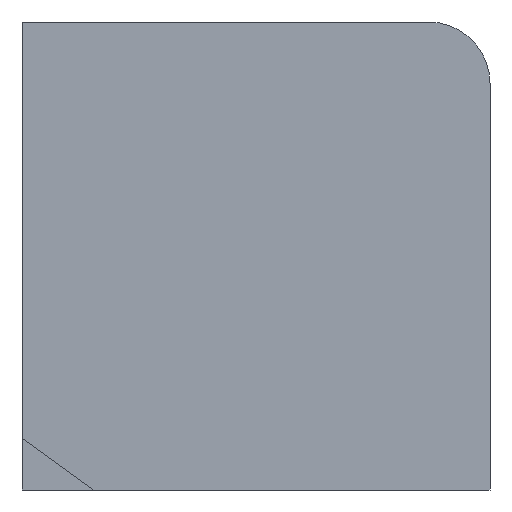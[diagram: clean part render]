
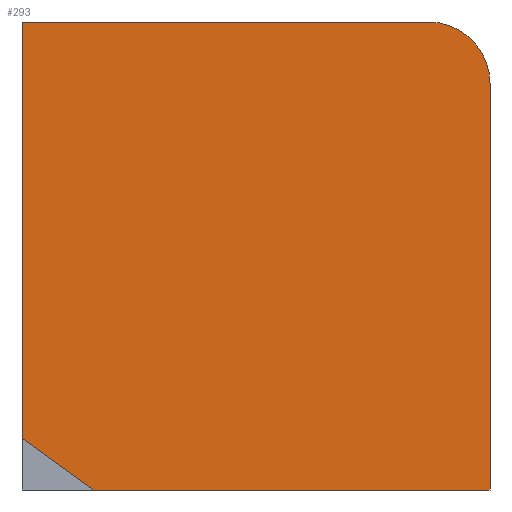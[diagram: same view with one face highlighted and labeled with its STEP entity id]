
A CAD part, front view. The second image highlights one B-rep face of the part: STEP entity #293.
In plain terms, the highlighted planar face has unit normal (0, -1, 0).
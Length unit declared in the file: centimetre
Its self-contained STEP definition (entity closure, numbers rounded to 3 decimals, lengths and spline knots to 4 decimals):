
#14 = ORIENTED_EDGE ( 'NONE', *, *, #780, .T. ) ;
#31 = CARTESIAN_POINT ( 'NONE',  ( 0., 0., 0. ) ) ;
#96 = LINE ( 'NONE', #214, #174 ) ;
#114 = CARTESIAN_POINT ( 'NONE',  ( 1000., 0., 868.5687 ) ) ;
#118 = CARTESIAN_POINT ( 'NONE',  ( 0., 0., 1000. ) ) ;
#129 = CIRCLE ( 'NONE', #882, 131.4313 ) ;
#131 = CARTESIAN_POINT ( 'NONE',  ( 0., 0., 110.1817 ) ) ;
#152 = DIRECTION ( 'NONE',  ( -0.81, 0., 0.587 ) ) ;
#159 = CARTESIAN_POINT ( 'NONE',  ( 868.5687, 0., 868.5687 ) ) ;
#174 = VECTOR ( 'NONE', #306, 100. ) ;
#185 = DIRECTION ( 'NONE',  ( 0., 0., -1. ) ) ;
#214 = CARTESIAN_POINT ( 'NONE',  ( 1000., 0., 1000. ) ) ;
#293 = ADVANCED_FACE ( 'NONE', ( #1132 ), #1358, .F. ) ;
#306 = DIRECTION ( 'NONE',  ( 0., 0., -1. ) ) ;
#325 = CARTESIAN_POINT ( 'NONE',  ( 868.5687, 0., 1000. ) ) ;
#338 = DIRECTION ( 'NONE',  ( 0., 1., 0. ) ) ;
#360 = LINE ( 'NONE', #131, #1261 ) ;
#382 = ORIENTED_EDGE ( 'NONE', *, *, #893, .F. ) ;
#386 = EDGE_CURVE ( 'NONE', #653, #977, #129, .T. ) ;
#390 = AXIS2_PLACEMENT_3D ( 'NONE', #118, #338, #1022 ) ;
#416 = VECTOR ( 'NONE', #1163, 100. ) ;
#468 = LINE ( 'NONE', #31, #1330 ) ;
#526 = EDGE_CURVE ( 'NONE', #965, #1319, #881, .T. ) ;
#594 = ORIENTED_EDGE ( 'NONE', *, *, #940, .F. ) ;
#648 = EDGE_LOOP ( 'NONE', ( #1248, #985, #14, #594, #1024, #382 ) ) ;
#653 = VERTEX_POINT ( 'NONE', #114 ) ;
#706 = CARTESIAN_POINT ( 'NONE',  ( 0., 0., 1000. ) ) ;
#761 = VECTOR ( 'NONE', #185, 100. ) ;
#780 = EDGE_CURVE ( 'NONE', #1307, #1234, #468, .T. ) ;
#851 = EDGE_CURVE ( 'NONE', #1307, #1319, #360, .T. ) ;
#881 = LINE ( 'NONE', #1329, #761 ) ;
#882 = AXIS2_PLACEMENT_3D ( 'NONE', #159, #1193, #1176 ) ;
#893 = EDGE_CURVE ( 'NONE', #965, #977, #1018, .T. ) ;
#916 = DIRECTION ( 'NONE',  ( 1., 0., 0. ) ) ;
#940 = EDGE_CURVE ( 'NONE', #653, #1234, #96, .T. ) ;
#965 = VERTEX_POINT ( 'NONE', #1336 ) ;
#977 = VERTEX_POINT ( 'NONE', #325 ) ;
#985 = ORIENTED_EDGE ( 'NONE', *, *, #851, .F. ) ;
#1018 = LINE ( 'NONE', #706, #416 ) ;
#1022 = DIRECTION ( 'NONE',  ( 0., 0., 1. ) ) ;
#1024 = ORIENTED_EDGE ( 'NONE', *, *, #386, .T. ) ;
#1079 = CARTESIAN_POINT ( 'NONE',  ( 0., 0., 110.1817 ) ) ;
#1132 = FACE_OUTER_BOUND ( 'NONE', #648, .T. ) ;
#1163 = DIRECTION ( 'NONE',  ( 1., 0., 0. ) ) ;
#1176 = DIRECTION ( 'NONE',  ( 0., 0., 1. ) ) ;
#1193 = DIRECTION ( 'NONE',  ( 0., -1., 0. ) ) ;
#1234 = VERTEX_POINT ( 'NONE', #1397 ) ;
#1248 = ORIENTED_EDGE ( 'NONE', *, *, #526, .T. ) ;
#1261 = VECTOR ( 'NONE', #152, 100. ) ;
#1307 = VERTEX_POINT ( 'NONE', #1405 ) ;
#1319 = VERTEX_POINT ( 'NONE', #1079 ) ;
#1329 = CARTESIAN_POINT ( 'NONE',  ( 0., 0., 1000. ) ) ;
#1330 = VECTOR ( 'NONE', #916, 100. ) ;
#1336 = CARTESIAN_POINT ( 'NONE',  ( 0., 0., 1000. ) ) ;
#1358 = PLANE ( 'NONE',  #390 ) ;
#1397 = CARTESIAN_POINT ( 'NONE',  ( 1000., 0., 0. ) ) ;
#1405 = CARTESIAN_POINT ( 'NONE',  ( 151.918, 0., 0. ) ) ;
